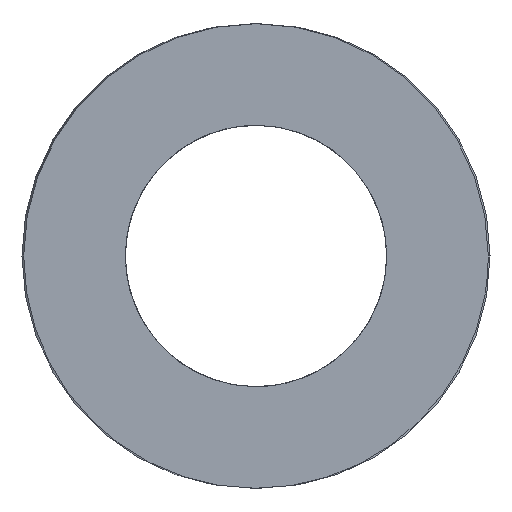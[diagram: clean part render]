
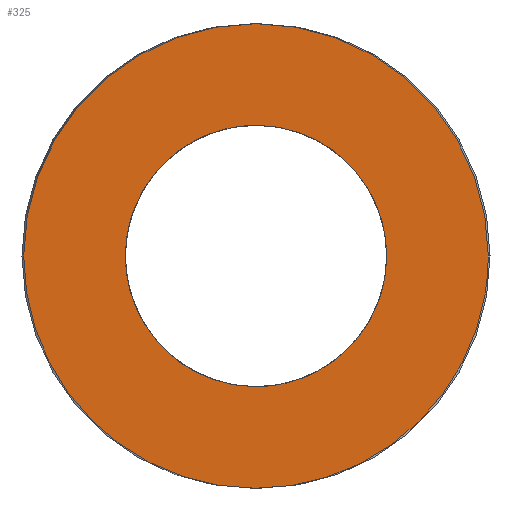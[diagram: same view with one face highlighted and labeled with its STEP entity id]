
A CAD part, left-side view. The second image highlights one B-rep face of the part: STEP entity #325.
In plain terms, the highlighted planar face has unit normal (-1, 0, 0).
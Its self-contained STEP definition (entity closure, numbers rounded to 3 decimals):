
#63=CARTESIAN_POINT('Vertex',(0.,18.75,0.)) ;
#89=CARTESIAN_POINT('Vertex',(0.,-18.75,0.)) ;
#93=CARTESIAN_POINT('Control Point',(0.,18.75,0.)) ;
#94=CARTESIAN_POINT('Control Point',(0.,18.75,-2.945)) ;
#95=CARTESIAN_POINT('Control Point',(0.,18.172,-5.89)) ;
#96=CARTESIAN_POINT('Control Point',(0.,17.015,-8.684)) ;
#97=CARTESIAN_POINT('Control Point',(0.,13.667,-13.667)) ;
#98=CARTESIAN_POINT('Control Point',(0.,8.684,-17.015)) ;
#99=CARTESIAN_POINT('Control Point',(0.,5.89,-18.172)) ;
#100=CARTESIAN_POINT('Control Point',(0.,0.,-19.328)) ;
#101=CARTESIAN_POINT('Control Point',(0.,-5.89,-18.172)) ;
#102=CARTESIAN_POINT('Control Point',(0.,-8.684,-17.015)) ;
#103=CARTESIAN_POINT('Control Point',(0.,-13.667,-13.667)) ;
#104=CARTESIAN_POINT('Control Point',(0.,-17.015,-8.684)) ;
#105=CARTESIAN_POINT('Control Point',(0.,-18.172,-5.89)) ;
#106=CARTESIAN_POINT('Control Point',(0.,-18.75,-2.945)) ;
#107=CARTESIAN_POINT('Control Point',(0.,-18.75,0.)) ;
#121=CARTESIAN_POINT('Axis2P3D Location',(0.,0.,0.)) ;
#256=CARTESIAN_POINT('Axis2P3D Location',(0.,9.375,0.)) ;
#266=CARTESIAN_POINT('Control Point',(0.,0.,-10.55)) ;
#267=CARTESIAN_POINT('Control Point',(0.,0.955,-10.55)) ;
#268=CARTESIAN_POINT('Control Point',(0.,1.909,-10.442)) ;
#269=CARTESIAN_POINT('Control Point',(0.,2.848,-10.226)) ;
#270=CARTESIAN_POINT('Control Point',(0.,4.66,-9.585)) ;
#271=CARTESIAN_POINT('Control Point',(0.,6.283,-8.556)) ;
#272=CARTESIAN_POINT('Control Point',(0.,7.032,-7.952)) ;
#273=CARTESIAN_POINT('Control Point',(0.,8.381,-6.584)) ;
#274=CARTESIAN_POINT('Control Point',(0.,9.391,-4.949)) ;
#275=CARTESIAN_POINT('Control Point',(0.,9.801,-4.077)) ;
#276=CARTESIAN_POINT('Control Point',(0.,10.416,-2.257)) ;
#277=CARTESIAN_POINT('Control Point',(0.,10.61,-0.345)) ;
#278=CARTESIAN_POINT('Control Point',(0.,10.597,0.618)) ;
#279=CARTESIAN_POINT('Control Point',(0.,10.355,2.524)) ;
#280=CARTESIAN_POINT('Control Point',(0.,9.693,4.328)) ;
#281=CARTESIAN_POINT('Control Point',(0.,9.26,5.189)) ;
#282=CARTESIAN_POINT('Control Point',(0.,8.209,6.797)) ;
#283=CARTESIAN_POINT('Control Point',(0.,6.825,8.13)) ;
#284=CARTESIAN_POINT('Control Point',(0.,6.06,8.715)) ;
#285=CARTESIAN_POINT('Control Point',(0.,4.458,9.674)) ;
#286=CARTESIAN_POINT('Control Point',(0.,2.687,10.262)) ;
#287=CARTESIAN_POINT('Control Point',(0.,1.801,10.454)) ;
#288=CARTESIAN_POINT('Control Point',(0.,0.9,10.55)) ;
#289=CARTESIAN_POINT('Control Point',(0.,0.,10.55)) ;
#290=CARTESIAN_POINT('Vertex',(0.,0.,-10.55)) ;
#292=CARTESIAN_POINT('Vertex',(0.,0.,10.55)) ;
#296=CARTESIAN_POINT('Control Point',(0.,0.,10.55)) ;
#297=CARTESIAN_POINT('Control Point',(0.,-0.955,10.55)) ;
#298=CARTESIAN_POINT('Control Point',(0.,-1.909,10.442)) ;
#299=CARTESIAN_POINT('Control Point',(0.,-2.848,10.226)) ;
#300=CARTESIAN_POINT('Control Point',(0.,-4.66,9.585)) ;
#301=CARTESIAN_POINT('Control Point',(0.,-6.283,8.556)) ;
#302=CARTESIAN_POINT('Control Point',(0.,-7.032,7.952)) ;
#303=CARTESIAN_POINT('Control Point',(0.,-8.381,6.584)) ;
#304=CARTESIAN_POINT('Control Point',(0.,-9.391,4.949)) ;
#305=CARTESIAN_POINT('Control Point',(0.,-9.801,4.077)) ;
#306=CARTESIAN_POINT('Control Point',(0.,-10.416,2.257)) ;
#307=CARTESIAN_POINT('Control Point',(0.,-10.61,0.345)) ;
#308=CARTESIAN_POINT('Control Point',(0.,-10.597,-0.618)) ;
#309=CARTESIAN_POINT('Control Point',(0.,-10.355,-2.524)) ;
#310=CARTESIAN_POINT('Control Point',(0.,-9.693,-4.328)) ;
#311=CARTESIAN_POINT('Control Point',(0.,-9.26,-5.189)) ;
#312=CARTESIAN_POINT('Control Point',(0.,-8.209,-6.797)) ;
#313=CARTESIAN_POINT('Control Point',(0.,-6.825,-8.13)) ;
#314=CARTESIAN_POINT('Control Point',(0.,-6.06,-8.715)) ;
#315=CARTESIAN_POINT('Control Point',(0.,-4.458,-9.674)) ;
#316=CARTESIAN_POINT('Control Point',(0.,-2.687,-10.262)) ;
#317=CARTESIAN_POINT('Control Point',(0.,-1.801,-10.454)) ;
#318=CARTESIAN_POINT('Control Point',(0.,-0.9,-10.55)) ;
#319=CARTESIAN_POINT('Control Point',(0.,0.,-10.55)) ;
#122=DIRECTION('Axis2P3D Direction',(1.,-0.,0.)) ;
#257=DIRECTION('Axis2P3D Direction',(-1.,0.,0.)) ;
#258=DIRECTION('Axis2P3D XDirection',(0.,1.,0.)) ;
#123=AXIS2_PLACEMENT_3D('Circle Axis2P3D',#121,#122,$) ;
#259=AXIS2_PLACEMENT_3D('Plane Axis2P3D',#256,#257,#258) ;
#262=ORIENTED_EDGE('',*,*,#108,.T.) ;
#263=ORIENTED_EDGE('',*,*,#125,.T.) ;
#322=ORIENTED_EDGE('',*,*,#294,.T.) ;
#323=ORIENTED_EDGE('',*,*,#320,.T.) ;
#324=FACE_BOUND('',#321,.T.) ;
#325=ADVANCED_FACE('392-B40-102',(#264,#324),#260,.T.) ;
#92=B_SPLINE_CURVE_WITH_KNOTS('',5,(#93,#94,#95,#96,#97,#98,#99,#100,#101,#102,#103,#104,#105,#106,#107),.UNSPECIFIED.,.F.,.U.,(6,3,3,3,6),(-29.452,-14.726,0.,14.726,29.452),.UNSPECIFIED.) ;
#265=B_SPLINE_CURVE_WITH_KNOTS('',5,(#266,#267,#268,#269,#270,#271,#272,#273,#274,#275,#276,#277,#278,#279,#280,#281,#282,#283,#284,#285,#286,#287,#288,#289),.UNSPECIFIED.,.F.,.U.,(6,3,3,3,3,3,3,6),(0.,6.751,13.502,20.253,27.004,33.755,40.506,46.872),.UNSPECIFIED.) ;
#295=B_SPLINE_CURVE_WITH_KNOTS('',5,(#296,#297,#298,#299,#300,#301,#302,#303,#304,#305,#306,#307,#308,#309,#310,#311,#312,#313,#314,#315,#316,#317,#318,#319),.UNSPECIFIED.,.F.,.U.,(6,3,3,3,3,3,3,6),(0.,6.751,13.502,20.253,27.004,33.755,40.506,46.872),.UNSPECIFIED.) ;
#124=CIRCLE('generated circle',#123,18.75) ;
#108=EDGE_CURVE('',#64,#90,#92,.T.) ;
#125=EDGE_CURVE('',#90,#64,#124,.F.) ;
#294=EDGE_CURVE('',#291,#293,#265,.T.) ;
#320=EDGE_CURVE('',#293,#291,#295,.T.) ;
#261=EDGE_LOOP('',(#262,#263)) ;
#321=EDGE_LOOP('',(#322,#323)) ;
#264=FACE_OUTER_BOUND('',#261,.T.) ;
#260=PLANE('Plane',#259) ;
#64=VERTEX_POINT('',#63) ;
#90=VERTEX_POINT('',#89) ;
#291=VERTEX_POINT('',#290) ;
#293=VERTEX_POINT('',#292) ;
